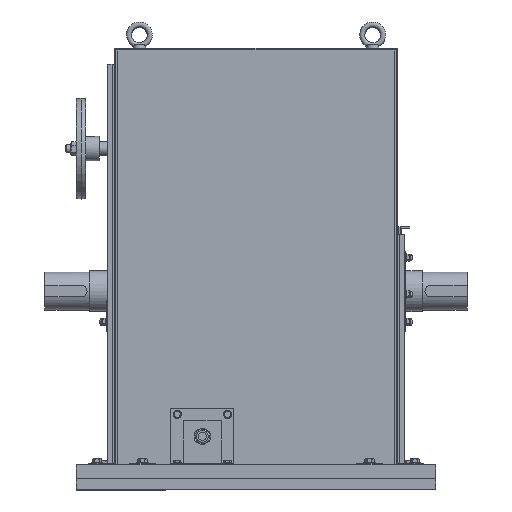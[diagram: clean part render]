
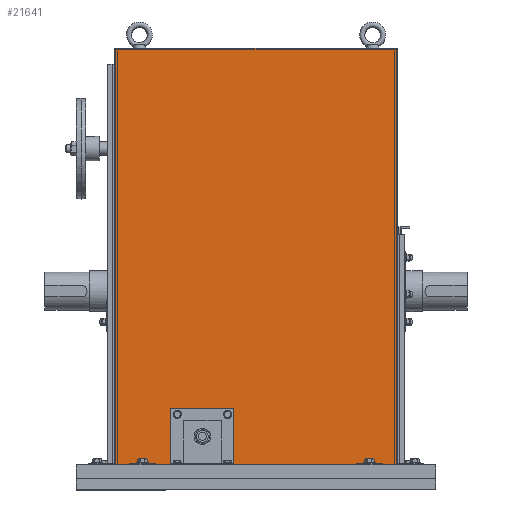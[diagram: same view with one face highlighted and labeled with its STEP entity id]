
A CAD part, top view. The second image highlights one B-rep face of the part: STEP entity #21641.
In plain terms, the highlighted planar face has unit normal (0, 0, 1).
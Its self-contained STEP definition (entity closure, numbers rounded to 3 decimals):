
#269 = DIRECTION ( 'NONE',  ( 1., 0., 0. ) ) ;
#345 = EDGE_CURVE ( 'NONE', #3032, #12845, #21545, .T. ) ;
#382 = LINE ( 'NONE', #9219, #16163 ) ;
#1443 = LINE ( 'NONE', #28536, #16338 ) ;
#1528 = DIRECTION ( 'NONE',  ( -1., 0., 0. ) ) ;
#1772 = ORIENTED_EDGE ( 'NONE', *, *, #24742, .T. ) ;
#2030 = DIRECTION ( 'NONE',  ( 1., 0., 0. ) ) ;
#2047 = ORIENTED_EDGE ( 'NONE', *, *, #5272, .T. ) ;
#2052 = CARTESIAN_POINT ( 'NONE',  ( 112.3, -276., 275. ) ) ;
#2263 = EDGE_CURVE ( 'NONE', #11901, #3032, #13121, .T. ) ;
#2838 = VECTOR ( 'NONE', #1528, 1000. ) ;
#3000 = ORIENTED_EDGE ( 'NONE', *, *, #9745, .F. ) ;
#3009 = LINE ( 'NONE', #11994, #8620 ) ;
#3032 = VERTEX_POINT ( 'NONE', #22422 ) ;
#3083 = VERTEX_POINT ( 'NONE', #25080 ) ;
#3269 = VECTOR ( 'NONE', #10865, 1000. ) ;
#3766 = LINE ( 'NONE', #8026, #28532 ) ;
#3814 = DIRECTION ( 'NONE',  ( 0., 0., -1. ) ) ;
#4112 = CARTESIAN_POINT ( 'NONE',  ( 535., -276., 275. ) ) ;
#4237 = EDGE_CURVE ( 'NONE', #5941, #20618, #3009, .T. ) ;
#4247 = CARTESIAN_POINT ( 'NONE',  ( 200., -276., 275. ) ) ;
#4269 = VERTEX_POINT ( 'NONE', #6779 ) ;
#4760 = VECTOR ( 'NONE', #14576, 1000. ) ;
#5272 = EDGE_CURVE ( 'NONE', #5941, #8236, #6162, .T. ) ;
#5941 = VERTEX_POINT ( 'NONE', #11798 ) ;
#6162 = LINE ( 'NONE', #24381, #14600 ) ;
#6209 = EDGE_LOOP ( 'NONE', ( #7928, #14485, #26064, #7279, #2047, #15288, #28469, #10983, #6547, #15149, #16988, #28756, #16789, #27547, #1772, #3000 ) ) ;
#6245 = LINE ( 'NONE', #15240, #2838 ) ;
#6547 = ORIENTED_EDGE ( 'NONE', *, *, #25582, .F. ) ;
#6638 = VERTEX_POINT ( 'NONE', #24129 ) ;
#6657 = LINE ( 'NONE', #22106, #9045 ) ;
#6779 = CARTESIAN_POINT ( 'NONE',  ( 112.3, -276., 275. ) ) ;
#7279 = ORIENTED_EDGE ( 'NONE', *, *, #4237, .F. ) ;
#7333 = LINE ( 'NONE', #20460, #10358 ) ;
#7749 = VERTEX_POINT ( 'NONE', #9380 ) ;
#7802 = CARTESIAN_POINT ( 'NONE',  ( 135., -276., 275. ) ) ;
#7843 = CARTESIAN_POINT ( 'NONE',  ( 535., -273.7, 275. ) ) ;
#7928 = ORIENTED_EDGE ( 'NONE', *, *, #10201, .F. ) ;
#8026 = CARTESIAN_POINT ( 'NONE',  ( 175., -273.7, 275. ) ) ;
#8236 = VERTEX_POINT ( 'NONE', #7843 ) ;
#8345 = DIRECTION ( 'NONE',  ( 1., 0., 0. ) ) ;
#8620 = VECTOR ( 'NONE', #18764, 1000. ) ;
#9045 = VECTOR ( 'NONE', #17705, 1000. ) ;
#9219 = CARTESIAN_POINT ( 'NONE',  ( 112.3, 385., 275. ) ) ;
#9380 = CARTESIAN_POINT ( 'NONE',  ( 200., -186., 275. ) ) ;
#9745 = EDGE_CURVE ( 'NONE', #7749, #10135, #28992, .T. ) ;
#10135 = VERTEX_POINT ( 'NONE', #28476 ) ;
#10201 = EDGE_CURVE ( 'NONE', #11114, #7749, #6245, .T. ) ;
#10358 = VECTOR ( 'NONE', #269, 1000. ) ;
#10784 = EDGE_CURVE ( 'NONE', #24828, #11114, #16054, .T. ) ;
#10865 = DIRECTION ( 'NONE',  ( 0., -1., 0. ) ) ;
#10894 = EDGE_CURVE ( 'NONE', #24828, #20618, #7333, .T. ) ;
#10983 = ORIENTED_EDGE ( 'NONE', *, *, #345, .T. ) ;
#11114 = VERTEX_POINT ( 'NONE', #12787 ) ;
#11217 = CARTESIAN_POINT ( 'NONE',  ( 495., -276., 275. ) ) ;
#11347 = AXIS2_PLACEMENT_3D ( 'NONE', #2052, #3814, #23823 ) ;
#11481 = VERTEX_POINT ( 'NONE', #26576 ) ;
#11798 = CARTESIAN_POINT ( 'NONE',  ( 495., -273.7, 275. ) ) ;
#11901 = VERTEX_POINT ( 'NONE', #4112 ) ;
#11909 = DIRECTION ( 'NONE',  ( 0., 1., 0. ) ) ;
#11994 = CARTESIAN_POINT ( 'NONE',  ( 495., -273.7, 275. ) ) ;
#12235 = LINE ( 'NONE', #17509, #17230 ) ;
#12259 = EDGE_CURVE ( 'NONE', #3083, #28877, #13513, .T. ) ;
#12638 = DIRECTION ( 'NONE',  ( 0., -1., 0. ) ) ;
#12732 = VERTEX_POINT ( 'NONE', #17119 ) ;
#12787 = CARTESIAN_POINT ( 'NONE',  ( 300., -186., 275. ) ) ;
#12845 = VERTEX_POINT ( 'NONE', #21666 ) ;
#12963 = VECTOR ( 'NONE', #22244, 1000. ) ;
#13121 = LINE ( 'NONE', #20619, #12963 ) ;
#13513 = LINE ( 'NONE', #19991, #24012 ) ;
#14460 = DIRECTION ( 'NONE',  ( 0., -1., 0. ) ) ;
#14485 = ORIENTED_EDGE ( 'NONE', *, *, #10784, .F. ) ;
#14576 = DIRECTION ( 'NONE',  ( 0., 1., 0. ) ) ;
#14600 = VECTOR ( 'NONE', #2030, 1000. ) ;
#15080 = EDGE_CURVE ( 'NONE', #12732, #6638, #12235, .T. ) ;
#15149 = ORIENTED_EDGE ( 'NONE', *, *, #21518, .F. ) ;
#15240 = CARTESIAN_POINT ( 'NONE',  ( 200., -186., 275. ) ) ;
#15288 = ORIENTED_EDGE ( 'NONE', *, *, #18405, .T. ) ;
#15424 = EDGE_CURVE ( 'NONE', #3083, #12732, #3766, .T. ) ;
#16054 = LINE ( 'NONE', #25016, #27330 ) ;
#16163 = VECTOR ( 'NONE', #18219, 1000. ) ;
#16238 = EDGE_CURVE ( 'NONE', #4269, #28877, #1443, .T. ) ;
#16338 = VECTOR ( 'NONE', #8345, 1000. ) ;
#16789 = ORIENTED_EDGE ( 'NONE', *, *, #15424, .T. ) ;
#16988 = ORIENTED_EDGE ( 'NONE', *, *, #16238, .T. ) ;
#17080 = CARTESIAN_POINT ( 'NONE',  ( 112.3, -276., 275. ) ) ;
#17119 = CARTESIAN_POINT ( 'NONE',  ( 175., -273.7, 275. ) ) ;
#17230 = VECTOR ( 'NONE', #14460, 1000. ) ;
#17509 = CARTESIAN_POINT ( 'NONE',  ( 175., -273.7, 275. ) ) ;
#17705 = DIRECTION ( 'NONE',  ( 1., 0., 0. ) ) ;
#18219 = DIRECTION ( 'NONE',  ( 1., 0., 0. ) ) ;
#18405 = EDGE_CURVE ( 'NONE', #8236, #11901, #26027, .T. ) ;
#18713 = LINE ( 'NONE', #17080, #4760 ) ;
#18764 = DIRECTION ( 'NONE',  ( 0., -1., 0. ) ) ;
#19344 = DIRECTION ( 'NONE',  ( 0., 1., 0. ) ) ;
#19991 = CARTESIAN_POINT ( 'NONE',  ( 135., -273.7, 275. ) ) ;
#20360 = VECTOR ( 'NONE', #12638, 1000. ) ;
#20460 = CARTESIAN_POINT ( 'NONE',  ( 112.3, -276., 275. ) ) ;
#20618 = VERTEX_POINT ( 'NONE', #11217 ) ;
#20619 = CARTESIAN_POINT ( 'NONE',  ( 112.3, -276., 275. ) ) ;
#21518 = EDGE_CURVE ( 'NONE', #4269, #11481, #18713, .T. ) ;
#21545 = LINE ( 'NONE', #26254, #25485 ) ;
#21641 = ADVANCED_FACE ( 'NONE', ( #26192 ), #23968, .F. ) ;
#21666 = CARTESIAN_POINT ( 'NONE',  ( 557.7, 385., 275. ) ) ;
#21877 = DIRECTION ( 'NONE',  ( 1., 0., 0. ) ) ;
#22106 = CARTESIAN_POINT ( 'NONE',  ( 112.3, -276., 275. ) ) ;
#22244 = DIRECTION ( 'NONE',  ( 1., 0., 0. ) ) ;
#22422 = CARTESIAN_POINT ( 'NONE',  ( 557.7, -276., 275. ) ) ;
#22829 = CARTESIAN_POINT ( 'NONE',  ( 300., -276., 275. ) ) ;
#23232 = CARTESIAN_POINT ( 'NONE',  ( 535., -273.7, 275. ) ) ;
#23823 = DIRECTION ( 'NONE',  ( -1., 0., 0. ) ) ;
#23968 = PLANE ( 'NONE',  #11347 ) ;
#24012 = VECTOR ( 'NONE', #29104, 1000. ) ;
#24129 = CARTESIAN_POINT ( 'NONE',  ( 175., -276., 275. ) ) ;
#24381 = CARTESIAN_POINT ( 'NONE',  ( 495., -273.7, 275. ) ) ;
#24742 = EDGE_CURVE ( 'NONE', #6638, #10135, #6657, .T. ) ;
#24828 = VERTEX_POINT ( 'NONE', #22829 ) ;
#25016 = CARTESIAN_POINT ( 'NONE',  ( 300., -276., 275. ) ) ;
#25080 = CARTESIAN_POINT ( 'NONE',  ( 135., -273.7, 275. ) ) ;
#25485 = VECTOR ( 'NONE', #19344, 1000. ) ;
#25582 = EDGE_CURVE ( 'NONE', #11481, #12845, #382, .T. ) ;
#26027 = LINE ( 'NONE', #23232, #20360 ) ;
#26064 = ORIENTED_EDGE ( 'NONE', *, *, #10894, .T. ) ;
#26192 = FACE_OUTER_BOUND ( 'NONE', #6209, .T. ) ;
#26254 = CARTESIAN_POINT ( 'NONE',  ( 557.7, -276., 275. ) ) ;
#26576 = CARTESIAN_POINT ( 'NONE',  ( 112.3, 385., 275. ) ) ;
#27330 = VECTOR ( 'NONE', #11909, 1000. ) ;
#27547 = ORIENTED_EDGE ( 'NONE', *, *, #15080, .T. ) ;
#28469 = ORIENTED_EDGE ( 'NONE', *, *, #2263, .T. ) ;
#28476 = CARTESIAN_POINT ( 'NONE',  ( 200., -276., 275. ) ) ;
#28532 = VECTOR ( 'NONE', #21877, 1000. ) ;
#28536 = CARTESIAN_POINT ( 'NONE',  ( 112.3, -276., 275. ) ) ;
#28756 = ORIENTED_EDGE ( 'NONE', *, *, #12259, .F. ) ;
#28877 = VERTEX_POINT ( 'NONE', #7802 ) ;
#28992 = LINE ( 'NONE', #4247, #3269 ) ;
#29104 = DIRECTION ( 'NONE',  ( 0., -1., 0. ) ) ;
